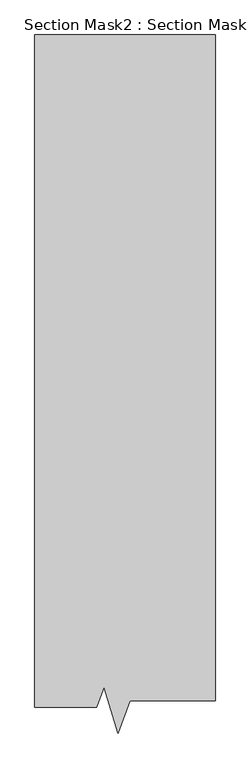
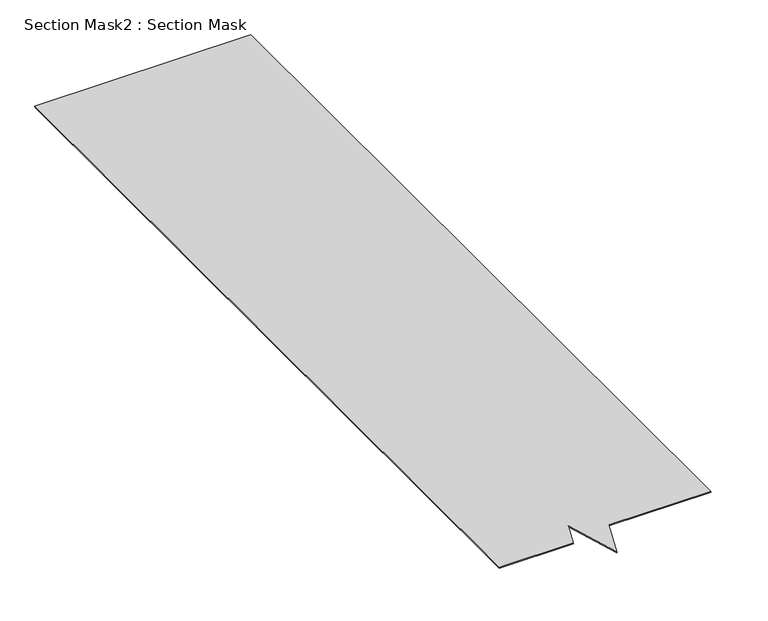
"""IFC4 building model written with IfcOpenShell, lengths in millimetres: proxy geometry, Section Mask2 : Section Mask."""

from ifc_helpers import new_model, si_unit, frame, origin, place, context, project, spatial, polyline, outline, extrude, source, transform, mapped, element, save


def section_mask2_section_mask_1289d720(model_context):
    return source(origin(), model_context, "Body", "SweptSolid", [
        extrude(outline(polyline([(480.280417, -301.0796171), (291.5004579, -301.0796171), (291.5004579, 1754.1332024), (843.6195865, 1754.1332024), (843.6195865, -280.2311456), (582.9143176, -280.2311456), (546.2974609, -379.3939873), (503.2973565, -238.7469831), (480.280417, -301.0796171)])), frame((0.0, 0.0, 51.3773345), z_axis=(0.0, 0.0, 1.0), x_axis=(1.0, 0.0, 0.0)), (0.0, 0.0, 1.0), 2.5976655),
    ])


if __name__ == "__main__":
    model = new_model("IFC4")
    model_context = context("Model", 3, world=origin())
    ifc_project = project(units=[si_unit("LENGTHUNIT", "METRE", prefix="MILLI")], contexts=[model_context])
    site = spatial("IfcSite", under=ifc_project)
    building = spatial("IfcBuilding", under=site)
    placement = place(None, origin())
    section_mask2_section_mask_shape = section_mask2_section_mask_1289d720(model_context)
    element("IfcBuildingElementProxy", 1, Name="Section Mask2 : Section Mask", ObjectType="Section Mask2 : Section Mask", at=placement, inside=building, context=model_context, shape_type="MappedRepresentation", body=[
        mapped(section_mask2_section_mask_shape, transform((0.0, 0.0, 0.0), x_axis=(1.0, 0.0, 0.0), y_axis=(0.0, 1.0, 0.0), z_axis=(0.0, 0.0, 1.0))),
    ])
    save(model, "model.ifc")
